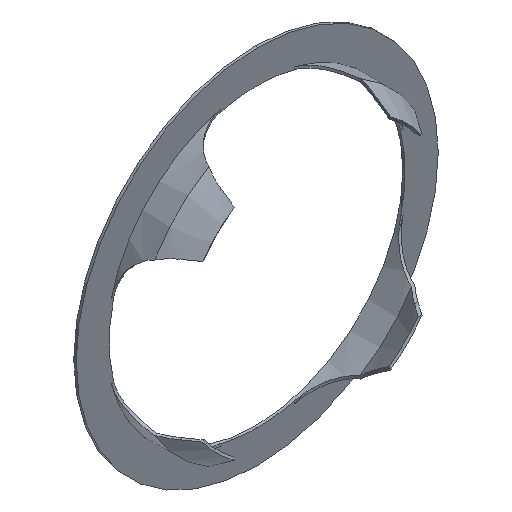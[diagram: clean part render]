
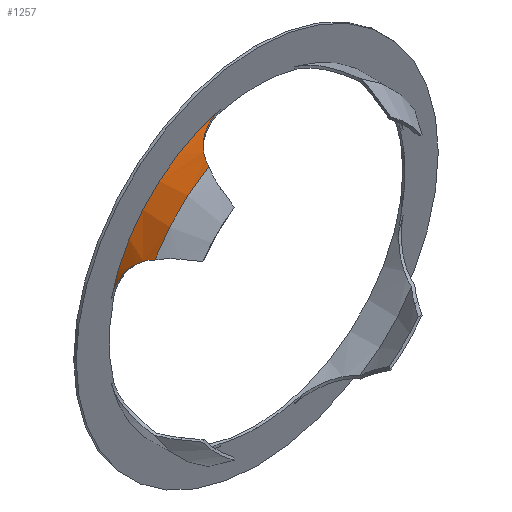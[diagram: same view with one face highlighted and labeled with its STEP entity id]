
A CAD part, isometric view. The second image highlights one B-rep face of the part: STEP entity #1257.
In plain terms, the highlighted cylindrical face has radius 18.3 mm (diameter 36.6 mm), a partial arc.
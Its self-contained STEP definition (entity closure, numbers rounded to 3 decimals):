
#26 = CARTESIAN_POINT ( 'NONE',  ( 0., 0., 0. ) ) ;
#66 = CARTESIAN_POINT ( 'NONE',  ( -17.738, 0., 4.5 ) ) ;
#75 = DIRECTION ( 'NONE',  ( 0., 0., 1. ) ) ;
#89 = ORIENTED_EDGE ( 'NONE', *, *, #1253, .F. ) ;
#174 = CARTESIAN_POINT ( 'NONE',  ( -16.56, -1.227, 7.791 ) ) ;
#183 = CARTESIAN_POINT ( 'NONE',  ( -8.781, -2.404, 16.056 ) ) ;
#195 = CARTESIAN_POINT ( 'NONE',  ( -16.134, -2.181, 8.638 ) ) ;
#203 = CARTESIAN_POINT ( 'NONE',  ( -17.599, -0.021, 5.024 ) ) ;
#211 = CARTESIAN_POINT ( 'NONE',  ( -17.194, -0.317, 6.271 ) ) ;
#236 = ORIENTED_EDGE ( 'NONE', *, *, #1362, .F. ) ;
#248 = EDGE_LOOP ( 'NONE', ( #89, #1264, #1011, #236 ) ) ;
#271 = DIRECTION ( 'NONE',  ( 0., 1., 0. ) ) ;
#296 = CARTESIAN_POINT ( 'NONE',  ( -6.973, -0.624, 16.926 ) ) ;
#303 = CARTESIAN_POINT ( 'NONE',  ( -4.5, 0., 17.738 ) ) ;
#320 = CARTESIAN_POINT ( 'NONE',  ( -6.52, -0.397, 17.107 ) ) ;
#321 = CARTESIAN_POINT ( 'NONE',  ( 0., -3.35, 0. ) ) ;
#325 = CARTESIAN_POINT ( 'NONE',  ( -17.364, -0.161, 5.784 ) ) ;
#346 = CARTESIAN_POINT ( 'NONE',  ( -15.808, -3.35, 9.22 ) ) ;
#369 = CARTESIAN_POINT ( 'NONE',  ( -17.738, 0., 4.5 ) ) ;
#393 = FACE_OUTER_BOUND ( 'NONE', #248, .T. ) ;
#431 = CARTESIAN_POINT ( 'NONE',  ( -15.808, -3.35, 9.22 ) ) ;
#444 = CARTESIAN_POINT ( 'NONE',  ( -9.028, -2.863, 15.919 ) ) ;
#505 = DIRECTION ( 'NONE',  ( 0., 0., 1. ) ) ;
#548 = DIRECTION ( 'NONE',  ( 0., 1., 0. ) ) ;
#560 = CARTESIAN_POINT ( 'NONE',  ( -17.445, -0.101, 5.535 ) ) ;
#639 = CARTESIAN_POINT ( 'NONE',  ( -17.105, -0.415, 6.51 ) ) ;
#650 = CARTESIAN_POINT ( 'NONE',  ( -9.133, -3.101, 15.858 ) ) ;
#658 = VERTEX_POINT ( 'NONE', #346 ) ;
#666 = CARTESIAN_POINT ( 'NONE',  ( -7.598, -1.067, 16.65 ) ) ;
#672 = CARTESIAN_POINT ( 'NONE',  ( -17.672, 0., 4.761 ) ) ;
#711 = VERTEX_POINT ( 'NONE', #369 ) ;
#726 = B_SPLINE_CURVE_WITH_KNOTS ( 'NONE', 3,
 ( #303, #1400, #1030, #320, #296, #666, #1238, #775, #1245, #789, #183, #444, #650, #1128 ),
 .UNSPECIFIED., .F., .F.,
 ( 4, 2, 2, 2, 2, 2, 4 ),
 ( 0.01, 0.012, 0.013, 0.014, 0.015, 0.016, 0.017 ),
 .UNSPECIFIED. ) ;
#749 = DIRECTION ( 'NONE',  ( 0., 1., 0. ) ) ;
#758 = AXIS2_PLACEMENT_3D ( 'NONE', #26, #749, #505 ) ;
#768 = CARTESIAN_POINT ( 'NONE',  ( -16.381, -1.584, 8.16 ) ) ;
#775 = CARTESIAN_POINT ( 'NONE',  ( -8.159, -1.583, 16.382 ) ) ;
#789 = CARTESIAN_POINT ( 'NONE',  ( -8.639, -2.183, 16.133 ) ) ;
#829 = CIRCLE ( 'NONE', #758, 18.3 ) ;
#835 = CARTESIAN_POINT ( 'NONE',  ( -4.5, 0., 17.738 ) ) ;
#854 = DIRECTION ( 'NONE',  ( 0., 0., 1. ) ) ;
#861 = CYLINDRICAL_SURFACE ( 'NONE', #1028, 18.3 ) ;
#899 = CARTESIAN_POINT ( 'NONE',  ( -16.651, -1.065, 7.595 ) ) ;
#923 = CARTESIAN_POINT ( 'NONE',  ( -9.22, -3.35, 15.808 ) ) ;
#994 = EDGE_CURVE ( 'NONE', #658, #1411, #1516, .T. ) ;
#1011 = ORIENTED_EDGE ( 'NONE', *, *, #994, .T. ) ;
#1012 = CARTESIAN_POINT ( 'NONE',  ( -15.92, -2.858, 9.025 ) ) ;
#1028 = AXIS2_PLACEMENT_3D ( 'NONE', #1348, #271, #854 ) ;
#1030 = CARTESIAN_POINT ( 'NONE',  ( -5.537, -0.082, 17.45 ) ) ;
#1031 = AXIS2_PLACEMENT_3D ( 'NONE', #321, #548, #75 ) ;
#1128 = CARTESIAN_POINT ( 'NONE',  ( -9.22, -3.35, 15.808 ) ) ;
#1136 = VERTEX_POINT ( 'NONE', #835 ) ;
#1151 = CARTESIAN_POINT ( 'NONE',  ( -16.924, -0.643, 6.966 ) ) ;
#1238 = CARTESIAN_POINT ( 'NONE',  ( -7.795, -1.23, 16.558 ) ) ;
#1245 = CARTESIAN_POINT ( 'NONE',  ( -8.328, -1.773, 16.296 ) ) ;
#1253 = EDGE_CURVE ( 'NONE', #711, #1136, #829, .T. ) ;
#1257 = ADVANCED_FACE ( 'NONE', ( #393 ), #861, .T. ) ;
#1264 = ORIENTED_EDGE ( 'NONE', *, *, #1330, .T. ) ;
#1330 = EDGE_CURVE ( 'NONE', #711, #658, #1364, .T. ) ;
#1348 = CARTESIAN_POINT ( 'NONE',  ( 0., 0., 0. ) ) ;
#1362 = EDGE_CURVE ( 'NONE', #1136, #1411, #726, .T. ) ;
#1363 = CARTESIAN_POINT ( 'NONE',  ( -16.296, -1.775, 8.329 ) ) ;
#1364 = B_SPLINE_CURVE_WITH_KNOTS ( 'NONE', 3,
 ( #66, #672, #203, #560, #325, #211, #639, #1151, #1489, #899, #174, #768, #1363, #195, #1373, #1012, #1500, #431 ),
 .UNSPECIFIED., .F., .F.,
 ( 4, 2, 2, 2, 2, 2, 2, 2, 4 ),
 ( 0.008, 0.009, 0.009, 0.01, 0.011, 0.012, 0.013, 0.013, 0.014 ),
 .UNSPECIFIED. ) ;
#1373 = CARTESIAN_POINT ( 'NONE',  ( -16.058, -2.398, 8.777 ) ) ;
#1400 = CARTESIAN_POINT ( 'NONE',  ( -5.027, 0., 17.604 ) ) ;
#1411 = VERTEX_POINT ( 'NONE', #923 ) ;
#1489 = CARTESIAN_POINT ( 'NONE',  ( -16.833, -0.773, 7.182 ) ) ;
#1500 = CARTESIAN_POINT ( 'NONE',  ( -15.858, -3.102, 9.133 ) ) ;
#1516 = CIRCLE ( 'NONE', #1031, 18.3 ) ;
